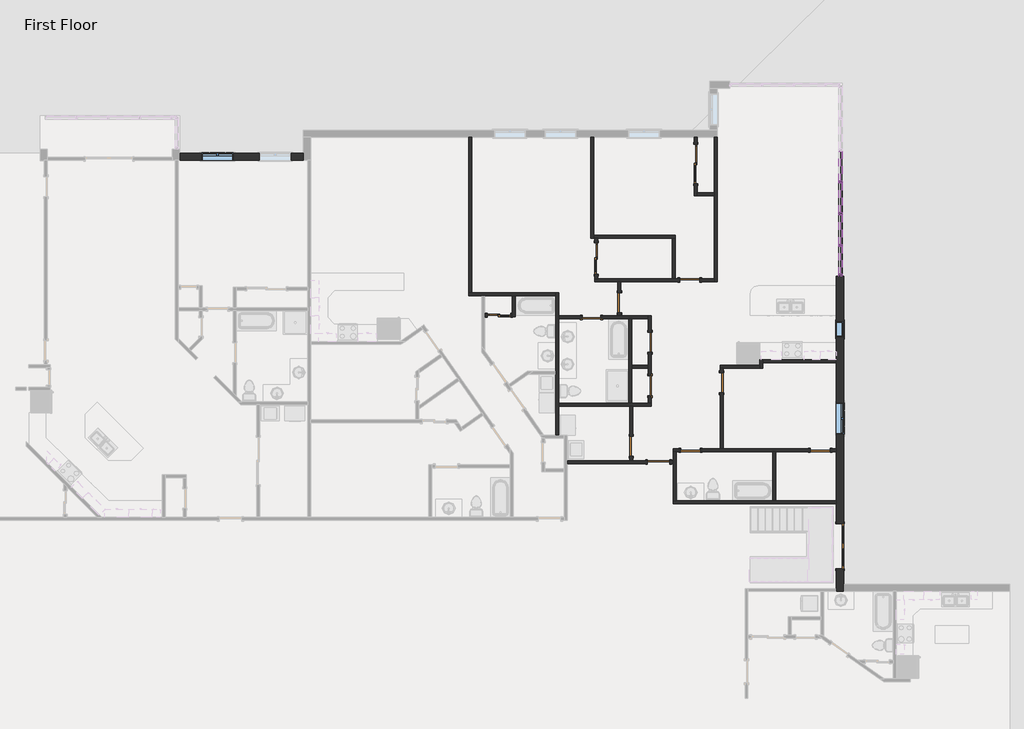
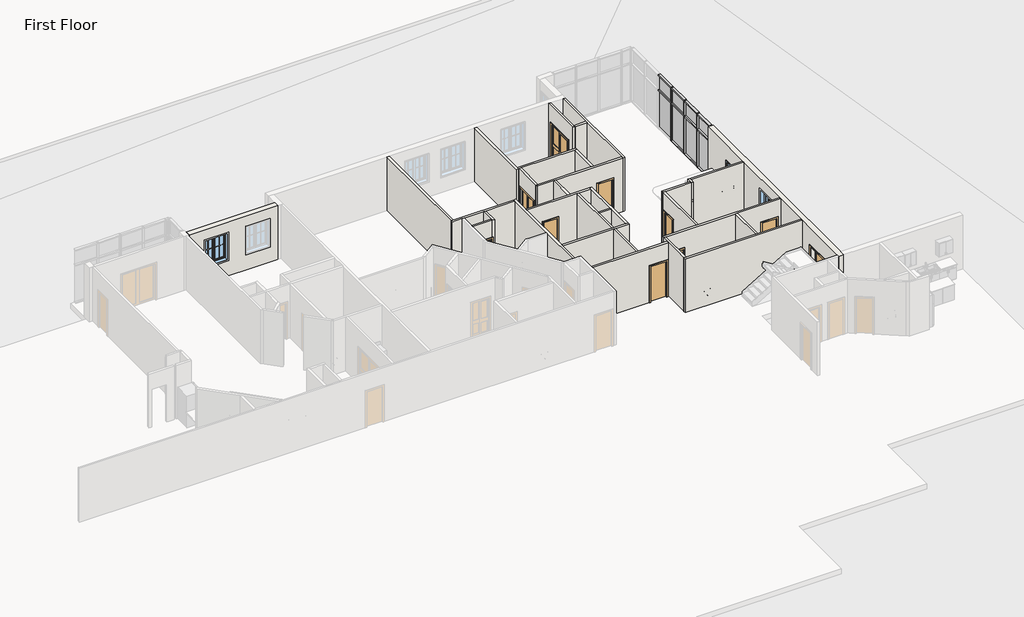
# One storey, part 11 of 17: 31 walls, 19 members, 14 doors, 8 plates, 3 windows.
"""IFC4 building model written with IfcOpenShell, lengths in millimetres."""

from ifc_helpers import new_model, si_unit, frame, origin, origin_with_axes, place, context, project, spatial, polyline, outline, extrude, faceted_brep, transform, mapped, element, save
from components import door_3dccea18, door_2d0eeab4, door_d8f5dbb5, door_f2b275c1, door_c29894e6, door_88c23cd7, door_900f836f, door_2e7ec8be, rectangular_mullion_rectangular_mullion_1_fa3625a1, rectangular_mullion_rectangular_mullion_1_a50b3cda, rectangular_mullion_rectangular_mullion_1_5cd4c5ac, rectangular_mullion_rectangular_mullion_1_7cbf0b94, rectangular_mullion_rectangular_mullion_1_6186cc23, rectangular_mullion_rectangular_mullion_1_049a2e78, rectangular_mullion_rectangular_mullion_1_fcad50a8, rectangular_mullion_rectangular_mullion_1_aa096312, system_panel_glazed_53e6f9fb, system_panel_glazed_cb820e14, system_panel_glazed_f20beefc, system_panel_glazed_097fd36c, window_b85827b5, window_33528cc2

model = new_model("IFC4")

# Units and contexts
model_context = context("Model", 3, world=origin())
ifc_project = project(units=[si_unit("LENGTHUNIT", "METRE", prefix="MILLI")], contexts=[model_context])

# Site, building, storey
site = spatial("IfcSite", under=ifc_project)
building = spatial("IfcBuilding", under=site)
storey = spatial("IfcBuildingStorey", under=building, Name="First Floor", Elevation=0.0)

# Doors
placement = place(None, origin())
door_shape = door_3dccea18(model_context)
element("IfcDoor", 1, ObjectType="Double-Glass 1 : 68\" x 80\"", at=placement, inside=storey, context=model_context, shape_type="MappedRepresentation", body=[
    mapped(door_shape, transform((57158.7150204, 1258.701613, 0.0), x_axis=(0.0, -1.0, 0.0), y_axis=(1.0, 0.0, 0.0), z_axis=(0.0, 0.0, 1.0))),
])
door_2_shape = door_2d0eeab4(model_context)
element("IfcDoor", 2, ObjectType="Single-Flush : 28\" x 80\"", at=placement, inside=storey, context=model_context, shape_type="MappedRepresentation", body=[
    mapped(door_2_shape, transform((47614.8260153, 10045.1667096, 0.0), x_axis=(1.0, 0.0, 0.0), y_axis=(0.0, 1.0, 0.0), z_axis=(0.0, 0.0, 1.0))),
])
door_3_shape = door_d8f5dbb5(model_context)
element("IfcDoor", 3, ObjectType="Single-Flush : 30\" x 80\"", at=placement, inside=storey, context=model_context, shape_type="MappedRepresentation", body=[
    mapped(door_3_shape, transform((51410.1982354, 4944.5386142, 0.0), x_axis=(-1.0, 0.0, 0.0), y_axis=(0.0, -1.0, 0.0), z_axis=(0.0, 0.0, 1.0))),
])
element("IfcDoor", 4, ObjectType="Single-Flush : 30\" x 80\"", at=placement, inside=storey, context=model_context, shape_type="MappedRepresentation", body=[
    mapped(door_3_shape, transform((49850.4788879, 7420.455328, 0.0), x_axis=(0.0, -1.0, 0.0), y_axis=(1.0, 0.0, 0.0), z_axis=(0.0, 0.0, 1.0))),
])
door_4_shape = door_f2b275c1(model_context)
element("IfcDoor", 5, ObjectType="Single-Flush : 30\" x 80\"", at=placement, inside=storey, context=model_context, shape_type="MappedRepresentation", body=[
    mapped(door_4_shape, transform((49133.9272963, 5096.9386142, 0.0), x_axis=(0.0, -1.0, 0.0), y_axis=(1.0, 0.0, 0.0), z_axis=(0.0, 0.0, 1.0))),
])
element("IfcDoor", 6, ObjectType="Single-Flush : 30\" x 80\"", at=placement, inside=storey, context=model_context, shape_type="MappedRepresentation", body=[
    mapped(door_4_shape, transform((52607.3485135, 7538.9439464, 0.0), x_axis=(0.0, 1.0, 0.0), y_axis=(-1.0, 0.0, 0.0), z_axis=(0.0, 0.0, 1.0))),
])
element("IfcDoor", 7, ObjectType="Single-Flush : 30\" x 80\"", at=placement, inside=storey, context=model_context, shape_type="MappedRepresentation", body=[
    mapped(door_4_shape, transform((56399.0962704, 4944.5386142, 0.0), x_axis=(1.0, 0.0, 0.0), y_axis=(0.0, 1.0, 0.0), z_axis=(0.0, 0.0, 1.0))),
])
element("IfcDoor", 8, ObjectType="Single-Flush : 30\" x 80\"", at=placement, inside=storey, context=model_context, shape_type="MappedRepresentation", body=[
    mapped(door_4_shape, transform((49850.4788879, 9096.855328, 0.0), x_axis=(0.0, 1.0, 0.0), y_axis=(-1.0, 0.0, 0.0), z_axis=(0.0, 0.0, 1.0))),
])
element("IfcDoor", 9, ObjectType="Single-Flush : 30\" x 80\"", at=placement, inside=storey, context=model_context, shape_type="MappedRepresentation", body=[
    mapped(door_4_shape, transform((51382.3746633, 11479.9245559, 0.0), x_axis=(-1.0, 0.0, 0.0), y_axis=(0.0, -1.0, 0.0), z_axis=(0.0, 0.0, 1.0))),
])
element("IfcDoor", 10, ObjectType="Single-Flush : 30\" x 80\"", at=placement, inside=storey, context=model_context, shape_type="MappedRepresentation", body=[
    mapped(door_4_shape, transform((48681.6260153, 10610.1456327, 0.0), x_axis=(0.0, -1.0, 0.0), y_axis=(1.0, 0.0, 0.0), z_axis=(0.0, 0.0, 1.0))),
])
door_5_shape = door_c29894e6(model_context)
element("IfcDoor", 11, ObjectType="Single-Flush : 34\" x 80\"", at=placement, inside=storey, context=model_context, shape_type="MappedRepresentation", body=[
    mapped(door_5_shape, transform((50190.9982354, 4487.3386142, 0.0), x_axis=(1.0, 0.0, 0.0), y_axis=(0.0, 1.0, 0.0), z_axis=(0.0, 0.0, 1.0))),
])
door_6_shape = door_88c23cd7(model_context)
element("IfcDoor", 12, ObjectType="Sliding-Closet : 36\" x 80\"", at=placement, inside=storey, context=model_context, shape_type="MappedRepresentation", body=[
    mapped(door_6_shape, transform((44050.8019535, 10258.3378349, 0.0), x_axis=(-1.0, 0.0, 0.0), y_axis=(0.0, -1.0, 0.0), z_axis=(0.0, 0.0, 1.0))),
])
door_7_shape = door_900f836f(model_context)
element("IfcDoor", 13, ObjectType="Sliding-Closet : 48\" x 80\"", at=placement, inside=storey, context=model_context, shape_type="MappedRepresentation", body=[
    mapped(door_7_shape, transform((47915.2940143, 12314.1601128, 0.0), x_axis=(0.0, 1.0, 0.0), y_axis=(-1.0, 0.0, 0.0), z_axis=(0.0, 0.0, 1.0))),
])
door_8_shape = door_2e7ec8be(model_context)
element("IfcDoor", 14, ObjectType="Sliding-Closet : 60\" x 80\"", at=placement, inside=storey, context=model_context, shape_type="MappedRepresentation", body=[
    mapped(door_8_shape, transform((51741.9440158, 15942.0032713, 0.0), x_axis=(0.0, 1.0, 0.0), y_axis=(-1.0, 0.0, 0.0), z_axis=(0.0, 0.0, 1.0))),
])

# Members
rectangular_mullion_rectangular_mullion_1_shape = rectangular_mullion_rectangular_mullion_1_fa3625a1(model_context)
element("IfcMember", 15, ObjectType="Rectangular Mullion : Rectangular Mullion 1", at=placement, inside=storey, context=model_context, shape_type="MappedRepresentation", body=[
    mapped(rectangular_mullion_rectangular_mullion_1_shape, transform((57175.1534229, 15281.8669816, 3048.0), x_axis=(0.0, 0.0, 1.0), y_axis=(-1.0, 0.0, 0.0), z_axis=(0.0, -1.0, 0.0))),
])
element("IfcMember", 16, ObjectType="Rectangular Mullion : Rectangular Mullion 1", at=placement, inside=storey, context=model_context, shape_type="MappedRepresentation", body=[
    mapped(rectangular_mullion_rectangular_mullion_1_shape, transform((57175.1534229, 14062.6669816, 3048.0), x_axis=(0.0, 0.0, 1.0), y_axis=(-1.0, 0.0, 0.0), z_axis=(0.0, -1.0, 0.0))),
])
element("IfcMember", 17, ObjectType="Rectangular Mullion : Rectangular Mullion 1", at=placement, inside=storey, context=model_context, shape_type="MappedRepresentation", body=[
    mapped(rectangular_mullion_rectangular_mullion_1_shape, transform((57175.1534229, 12843.4669816, 3048.0), x_axis=(0.0, 0.0, 1.0), y_axis=(-1.0, 0.0, 0.0), z_axis=(0.0, -1.0, 0.0))),
])
element("IfcMember", 18, ObjectType="Rectangular Mullion : Rectangular Mullion 1", at=placement, inside=storey, context=model_context, shape_type="MappedRepresentation", body=[
    mapped(rectangular_mullion_rectangular_mullion_1_shape, transform((57175.1534229, 15218.3669816, 0.0), x_axis=(0.0, 0.0, -1.0), y_axis=(-1.0, 0.0, 0.0), z_axis=(0.0, 1.0, 0.0))),
])
element("IfcMember", 19, ObjectType="Rectangular Mullion : Rectangular Mullion 1", at=placement, inside=storey, context=model_context, shape_type="MappedRepresentation", body=[
    mapped(rectangular_mullion_rectangular_mullion_1_shape, transform((57175.1534229, 13999.1669816, 0.0), x_axis=(0.0, 0.0, -1.0), y_axis=(-1.0, 0.0, 0.0), z_axis=(0.0, 1.0, 0.0))),
])
rectangular_mullion_rectangular_mullion_1_2_shape = rectangular_mullion_rectangular_mullion_1_a50b3cda(model_context)
element("IfcMember", 20, ObjectType="Rectangular Mullion : Rectangular Mullion 1", at=placement, inside=storey, context=model_context, shape_type="MappedRepresentation", body=[
    mapped(rectangular_mullion_rectangular_mullion_1_2_shape, transform((57175.1534229, 11632.2044819, 0.0), x_axis=(0.0, -1.0, 0.0), y_axis=(-1.0, 0.0, 0.0), z_axis=(0.0, 0.0, -1.0))),
])
rectangular_mullion_rectangular_mullion_1_3_shape = rectangular_mullion_rectangular_mullion_1_5cd4c5ac(model_context)
element("IfcMember", 21, ObjectType="Rectangular Mullion : Rectangular Mullion 1", at=placement, inside=storey, context=model_context, shape_type="MappedRepresentation", body=[
    mapped(rectangular_mullion_rectangular_mullion_1_3_shape, transform((57175.1534229, 11632.2044819, 2165.35), x_axis=(0.0, -1.0, 0.0), y_axis=(-1.0, 0.0, 0.0), z_axis=(0.0, 0.0, -1.0))),
])
rectangular_mullion_rectangular_mullion_1_4_shape = rectangular_mullion_rectangular_mullion_1_7cbf0b94(model_context)
element("IfcMember", 22, ObjectType="Rectangular Mullion : Rectangular Mullion 1", at=placement, inside=storey, context=model_context, shape_type="MappedRepresentation", body=[
    mapped(rectangular_mullion_rectangular_mullion_1_4_shape, transform((57175.1534229, 15281.8669816, 2165.35), x_axis=(0.0, 0.0, 1.0), y_axis=(-1.0, 0.0, 0.0), z_axis=(0.0, -1.0, 0.0))),
])
element("IfcMember", 23, ObjectType="Rectangular Mullion : Rectangular Mullion 1", at=placement, inside=storey, context=model_context, shape_type="MappedRepresentation", body=[
    mapped(rectangular_mullion_rectangular_mullion_1_4_shape, transform((57175.1534229, 14062.6669816, 2165.35), x_axis=(0.0, 0.0, 1.0), y_axis=(-1.0, 0.0, 0.0), z_axis=(0.0, -1.0, 0.0))),
])
element("IfcMember", 24, ObjectType="Rectangular Mullion : Rectangular Mullion 1", at=placement, inside=storey, context=model_context, shape_type="MappedRepresentation", body=[
    mapped(rectangular_mullion_rectangular_mullion_1_4_shape, transform((57175.1534229, 12843.4669816, 2165.35), x_axis=(0.0, 0.0, 1.0), y_axis=(-1.0, 0.0, 0.0), z_axis=(0.0, -1.0, 0.0))),
])
rectangular_mullion_rectangular_mullion_1_5_shape = rectangular_mullion_rectangular_mullion_1_6186cc23(model_context)
element("IfcMember", 25, ObjectType="Rectangular Mullion : Rectangular Mullion 1", at=placement, inside=storey, context=model_context, shape_type="MappedRepresentation", body=[
    mapped(rectangular_mullion_rectangular_mullion_1_5_shape, transform((57175.1534229, 15250.1169816, 0.0), x_axis=(0.0, -1.0, 0.0), y_axis=(-1.0, 0.0, 0.0), z_axis=(0.0, 0.0, -1.0))),
])
element("IfcMember", 26, ObjectType="Rectangular Mullion : Rectangular Mullion 1", at=placement, inside=storey, context=model_context, shape_type="MappedRepresentation", body=[
    mapped(rectangular_mullion_rectangular_mullion_1_5_shape, transform((57175.1534229, 14030.9169816, 0.0), x_axis=(0.0, -1.0, 0.0), y_axis=(-1.0, 0.0, 0.0), z_axis=(0.0, 0.0, -1.0))),
])
element("IfcMember", 27, ObjectType="Rectangular Mullion : Rectangular Mullion 1", at=placement, inside=storey, context=model_context, shape_type="MappedRepresentation", body=[
    mapped(rectangular_mullion_rectangular_mullion_1_5_shape, transform((57175.1534229, 12811.7169816, 0.0), x_axis=(0.0, -1.0, 0.0), y_axis=(-1.0, 0.0, 0.0), z_axis=(0.0, 0.0, -1.0))),
])
rectangular_mullion_rectangular_mullion_1_6_shape = rectangular_mullion_rectangular_mullion_1_049a2e78(model_context)
element("IfcMember", 28, ObjectType="Rectangular Mullion : Rectangular Mullion 1", at=placement, inside=storey, context=model_context, shape_type="MappedRepresentation", body=[
    mapped(rectangular_mullion_rectangular_mullion_1_6_shape, transform((57175.1534229, 15250.1169816, 2165.35), x_axis=(0.0, -1.0, 0.0), y_axis=(-1.0, 0.0, 0.0), z_axis=(0.0, 0.0, -1.0))),
])
element("IfcMember", 29, ObjectType="Rectangular Mullion : Rectangular Mullion 1", at=placement, inside=storey, context=model_context, shape_type="MappedRepresentation", body=[
    mapped(rectangular_mullion_rectangular_mullion_1_6_shape, transform((57175.1534229, 14030.9169816, 2165.35), x_axis=(0.0, -1.0, 0.0), y_axis=(-1.0, 0.0, 0.0), z_axis=(0.0, 0.0, -1.0))),
])
element("IfcMember", 30, ObjectType="Rectangular Mullion : Rectangular Mullion 1", at=placement, inside=storey, context=model_context, shape_type="MappedRepresentation", body=[
    mapped(rectangular_mullion_rectangular_mullion_1_6_shape, transform((57175.1534229, 12811.7169816, 2165.35), x_axis=(0.0, -1.0, 0.0), y_axis=(-1.0, 0.0, 0.0), z_axis=(0.0, 0.0, -1.0))),
])
rectangular_mullion_rectangular_mullion_1_7_shape = rectangular_mullion_rectangular_mullion_1_fcad50a8(model_context)
element("IfcMember", 31, ObjectType="Rectangular Mullion : Rectangular Mullion 1", at=placement, inside=storey, context=model_context, shape_type="MappedRepresentation", body=[
    mapped(rectangular_mullion_rectangular_mullion_1_7_shape, transform((57175.1534229, 11695.7044819, 3048.0), x_axis=(0.0, 0.0, 1.0), y_axis=(-1.0, 0.0, 0.0), z_axis=(0.0, -1.0, 0.0))),
])
element("IfcMember", 32, ObjectType="Rectangular Mullion : Rectangular Mullion 1", at=placement, inside=storey, context=model_context, shape_type="MappedRepresentation", body=[
    mapped(rectangular_mullion_rectangular_mullion_1_7_shape, transform((57175.1534229, 12779.9669816, 0.0), x_axis=(0.0, 0.0, -1.0), y_axis=(-1.0, 0.0, 0.0), z_axis=(0.0, 1.0, 0.0))),
])
rectangular_mullion_rectangular_mullion_1_8_shape = rectangular_mullion_rectangular_mullion_1_aa096312(model_context)
element("IfcMember", 33, ObjectType="Rectangular Mullion : Rectangular Mullion 1", at=placement, inside=storey, context=model_context, shape_type="MappedRepresentation", body=[
    mapped(rectangular_mullion_rectangular_mullion_1_8_shape, transform((57175.1534229, 11695.7044819, 2165.35), x_axis=(0.0, 0.0, 1.0), y_axis=(-1.0, 0.0, 0.0), z_axis=(0.0, -1.0, 0.0))),
])

# Plates
system_panel_glazed_shape = system_panel_glazed_53e6f9fb(model_context)
element("IfcPlate", 34, ObjectType="System Panel : Glazed", at=placement, inside=storey, context=model_context, shape_type="MappedRepresentation", body=[
    mapped(system_panel_glazed_shape, transform((57175.1534229, 15859.7169816, 63.5), x_axis=(0.0, -1.0, 0.0), y_axis=(1.0, 0.0, 0.0), z_axis=(0.0, 0.0, 1.0))),
])
element("IfcPlate", 35, ObjectType="System Panel : Glazed", at=placement, inside=storey, context=model_context, shape_type="MappedRepresentation", body=[
    mapped(system_panel_glazed_shape, transform((57175.1534229, 14640.5169816, 63.5), x_axis=(0.0, -1.0, 0.0), y_axis=(1.0, 0.0, 0.0), z_axis=(0.0, 0.0, 1.0))),
])
element("IfcPlate", 36, ObjectType="System Panel : Glazed", at=placement, inside=storey, context=model_context, shape_type="MappedRepresentation", body=[
    mapped(system_panel_glazed_shape, transform((57175.1534229, 13421.3169816, 63.5), x_axis=(0.0, -1.0, 0.0), y_axis=(1.0, 0.0, 0.0), z_axis=(0.0, 0.0, 1.0))),
])
system_panel_glazed_2_shape = system_panel_glazed_cb820e14(model_context)
element("IfcPlate", 37, ObjectType="System Panel : Glazed", at=placement, inside=storey, context=model_context, shape_type="MappedRepresentation", body=[
    mapped(system_panel_glazed_2_shape, transform((57175.1534229, 15859.7169816, 2197.1), x_axis=(0.0, -1.0, 0.0), y_axis=(1.0, 0.0, 0.0), z_axis=(0.0, 0.0, 1.0))),
])
element("IfcPlate", 38, ObjectType="System Panel : Glazed", at=placement, inside=storey, context=model_context, shape_type="MappedRepresentation", body=[
    mapped(system_panel_glazed_2_shape, transform((57175.1534229, 14640.5169816, 2197.1), x_axis=(0.0, -1.0, 0.0), y_axis=(1.0, 0.0, 0.0), z_axis=(0.0, 0.0, 1.0))),
])
element("IfcPlate", 39, ObjectType="System Panel : Glazed", at=placement, inside=storey, context=model_context, shape_type="MappedRepresentation", body=[
    mapped(system_panel_glazed_2_shape, transform((57175.1534229, 13421.3169816, 2197.1), x_axis=(0.0, -1.0, 0.0), y_axis=(1.0, 0.0, 0.0), z_axis=(0.0, 0.0, 1.0))),
])
system_panel_glazed_3_shape = system_panel_glazed_f20beefc(model_context)
element("IfcPlate", 40, ObjectType="System Panel : Glazed", at=placement, inside=storey, context=model_context, shape_type="MappedRepresentation", body=[
    mapped(system_panel_glazed_3_shape, transform((57175.1534229, 12237.8357318, 63.5), x_axis=(0.0, -1.0, 0.0), y_axis=(1.0, 0.0, 0.0), z_axis=(0.0, 0.0, 1.0))),
])
system_panel_glazed_4_shape = system_panel_glazed_097fd36c(model_context)
element("IfcPlate", 41, ObjectType="System Panel : Glazed", at=placement, inside=storey, context=model_context, shape_type="MappedRepresentation", body=[
    mapped(system_panel_glazed_4_shape, transform((57175.1534229, 12237.8357318, 2197.1), x_axis=(0.0, -1.0, 0.0), y_axis=(1.0, 0.0, 0.0), z_axis=(0.0, 0.0, 1.0))),
])

# Walls
element("IfcWall", 42, ObjectType="Exterior - Brick on Wood Stud", at=placement, inside=storey, context=model_context, shape_type="Brep", body=[
    faceted_brep([(57019.8087704, 395.101613, 2032.0), (57019.8087704, 395.101613, 0.0), (57019.8087704, -370.8512558, 0.0), (57019.8087704, -485.1512558, 0.0), (57019.8087704, -485.1512558, 3048.0), (57019.8087704, -370.8512558, 3048.0), (57019.8087704, 2888.2544819, 3048.0), (57019.8087704, 3002.5544819, 3048.0), (57019.8087704, 4887.3886142, 3048.0), (57019.8087704, 5001.6886142, 3048.0), (57019.8087704, 8311.6167096, 3048.0), (57019.8087704, 8425.9167096, 3048.0), (57019.8087704, 11632.2044819, 3048.0), (57019.8087704, 11632.2044819, 0.0), (57019.8087704, 8425.9167096, 0.0), (57019.8087704, 8311.6167096, 0.0), (57019.8087704, 5001.6886142, 0.0), (57019.8087704, 4887.3886142, 0.0), (57019.8087704, 3002.5544819, 0.0), (57019.8087704, 2888.2544819, 0.0), (57019.8087704, 2122.301613, 0.0), (57019.8087704, 2122.301613, 2032.0), (57019.8087704, 5554.1386142, 2438.4), (57019.8087704, 5554.1386142, 914.4), (57019.8087704, 6773.3386142, 914.4), (57019.8087704, 6773.3386142, 2438.4), (57019.8087704, 9283.1667096, 2133.6), (57019.8087704, 9283.1667096, 914.4), (57019.8087704, 9892.7667096, 914.4), (57019.8087704, 9892.7667096, 2133.6), (57302.3837704, -485.1512558, 0.0), (57302.3837704, -202.5762558, 0.0), (57302.3837704, 395.101613, 0.0), (57302.3837704, 395.101613, 2032.0), (57302.3837704, 2122.301613, 2032.0), (57302.3837704, 2122.301613, 0.0), (57302.3837704, 11632.2044819, 0.0), (57302.3837704, 11632.2044819, 3048.0), (57302.3837704, -202.5762558, 3048.0), (57302.3837704, -485.1512558, 3048.0), (57302.3837704, 5554.1386142, 2438.4), (57302.3837704, 6773.3386142, 2438.4), (57302.3837704, 6773.3386142, 914.4), (57302.3837704, 5554.1386142, 914.4), (57302.3837704, 9283.1667096, 2133.6), (57302.3837704, 9892.7667096, 2133.6), (57302.3837704, 9892.7667096, 914.4), (57302.3837704, 9283.1667096, 914.4)], [[[0, 1, 2, 3, 4, 5, 6, 7, 8, 9, 10, 11, 12, 13, 14, 15, 16, 17, 18, 19, 20, 21], [22, 23, 24, 25], [26, 27, 28, 29]], [[30, 31, 32, 33, 34, 35, 36, 37, 38, 39], [40, 41, 42, 43], [44, 45, 46, 47]], [[3, 2, 1, 32, 31, 30]], [[20, 19, 18, 17, 16, 15, 14, 13, 36, 35]], [[12, 11, 10, 9, 8, 7, 6, 5, 4, 39, 38, 37]], [[13, 12, 37, 36]], [[23, 22, 40, 43]], [[24, 23, 43, 42]], [[25, 24, 42, 41]], [[22, 25, 41, 40]], [[27, 26, 44, 47]], [[28, 27, 47, 46]], [[29, 28, 46, 45]], [[26, 29, 45, 44]], [[4, 3, 30, 39]], [[33, 32, 1, 0]], [[34, 33, 0, 21]], [[35, 34, 21, 20]]]),
])
element("IfcWall", 43, ObjectType="Exterior - Brick on Wood Stud", at=placement, inside=storey, context=model_context, shape_type="SweptSolid", body=[
    extrude(outline(polyline([(0.0, 36533.8428001), (3048.0, 36533.8428001), (3048.0, 31777.7798474), (0.0, 31777.7798474), (0.0, 36533.8428001)]), holes=[polyline([(2438.4, 36065.5303001), (914.4, 36065.5303001), (914.4, 34846.3303001), (2438.4, 34846.3303001), (2438.4, 36065.5303001)]), polyline([(2438.4, 33846.2923474), (914.4, 33846.2923474), (914.4, 32627.0923474), (2438.4, 32627.0923474), (2438.4, 33846.2923474)])]), frame((0.0, 16077.0865339, 0.0), z_axis=(0.0, 1.0, 0.0), x_axis=(0.0, 0.0, 1.0)), (0.0, 0.0, 1.0), 282.575),
])
element("IfcWall", 44, ObjectType="Interior - 4 1/2\" Partition", at=placement, inside=storey, context=model_context, shape_type="Brep", body=[
    faceted_brep([(57019.8087704, 3002.5544819, 0.0), (54695.8146836, 3002.5544819, 0.0), (54581.5146836, 3002.5544819, 0.0), (50857.7482354, 3002.5544819, 0.0), (50743.4482354, 3002.5544819, 0.0), (50743.4482354, 3002.5544819, 3048.0), (50857.7482354, 3002.5544819, 3048.0), (54581.5146836, 3002.5544819, 3048.0), (54695.8146836, 3002.5544819, 3048.0), (57019.8087704, 3002.5544819, 3048.0), (57019.8087704, 2888.2544819, 0.0), (57019.8087704, 2888.2544819, 3048.0), (50743.4482354, 2888.2544819, 3048.0), (50743.4482354, 2888.2544819, 0.0)], [[[0, 1, 2, 3, 4, 5, 6, 7, 8, 9]], [[10, 11, 12, 13]], [[4, 3, 2, 1, 0, 10, 13]], [[9, 8, 7, 6, 5, 12, 11]], [[5, 4, 13, 12]], [[0, 9, 11, 10]]]),
])
element("IfcWall", 45, ObjectType="Interior - 4 1/2\" Partition", at=placement, inside=storey, context=model_context, shape_type="Brep", body=[
    faceted_brep([(50857.7482354, 3002.5544819, 0.0), (50857.7482354, 4887.3886142, 0.0), (50857.7482354, 4887.3886142, 3048.0), (50857.7482354, 3002.5544819, 3048.0), (50743.4482354, 3002.5544819, 0.0), (50743.4482354, 3002.5544819, 3048.0), (50743.4482354, 4430.1886142, 3048.0), (50743.4482354, 4544.4886142, 3048.0), (50743.4482354, 4887.3886142, 3048.0), (50743.4482354, 4887.3886142, 0.0), (50743.4482354, 4544.4886142, 0.0), (50743.4482354, 4430.1886142, 0.0)], [[[0, 1, 2, 3]], [[4, 5, 6, 7, 8, 9, 10, 11]], [[1, 0, 4, 11, 10, 9]], [[3, 2, 8, 7, 6, 5]], [[2, 1, 9, 8]], [[0, 3, 5, 4]]]),
])
element("IfcWall", 46, ObjectType="Interior - 4 1/2\" Partition", at=placement, inside=storey, context=model_context, shape_type="Brep", body=[
    faceted_brep([(50743.4482354, 4544.4886142, 0.0), (50622.7982354, 4544.4886142, 0.0), (50622.7982354, 4544.4886142, 2032.0), (49759.1982354, 4544.4886142, 2032.0), (49759.1982354, 4544.4886142, 0.0), (49191.0772963, 4544.4886142, 0.0), (49076.7772963, 4544.4886142, 0.0), (46668.7626872, 4544.4886142, 0.0), (46668.7626872, 4544.4886142, 3048.0), (49076.7772963, 4544.4886142, 3048.0), (49191.0772963, 4544.4886142, 3048.0), (50743.4482354, 4544.4886142, 3048.0), (50622.7982354, 4430.1886142, 2032.0), (50622.7982354, 4430.1886142, 0.0), (50743.4482354, 4430.1886142, 0.0), (50743.4482354, 4430.1886142, 3048.0), (46668.7626872, 4430.1886142, 3048.0), (46668.7626872, 4430.1886142, 0.0), (49759.1982354, 4430.1886142, 0.0), (49759.1982354, 4430.1886142, 2032.0)], [[[0, 1, 2, 3, 4, 5, 6, 7, 8, 9, 10, 11]], [[12, 13, 14, 15, 16, 17, 18, 19]], [[18, 17, 7, 6, 5, 4]], [[14, 13, 1, 0]], [[11, 10, 9, 8, 16, 15]], [[2, 1, 13, 12]], [[3, 2, 12, 19]], [[4, 3, 19, 18]], [[8, 7, 17, 16]], [[0, 11, 15, 14]]]),
])
element("IfcWall", 47, ObjectType="Interior - 4 1/2\" Partition", at=placement, inside=storey, context=model_context, shape_type="Brep", body=[
    faceted_brep([(46352.4352525, 5524.2893477, 0.0), (46352.4352525, 6635.2167096, 0.0), (46352.4352525, 6749.5167096, 0.0), (46352.4352525, 9988.0167096, 0.0), (46352.4352525, 10102.3167096, 0.0), (46352.4352525, 11001.2878349, 0.0), (46352.4352525, 11001.2878349, 3048.0), (46352.4352525, 10102.3167096, 3048.0), (46352.4352525, 9988.0167096, 3048.0), (46352.4352525, 6749.5167096, 3048.0), (46352.4352525, 6635.2167096, 3048.0), (46352.4352525, 5524.2893477, 3048.0), (46238.1352525, 5524.2893477, 0.0), (46238.1352525, 5524.2893477, 3048.0), (46238.1352525, 7864.8634145, 3048.0), (46238.1352525, 7979.1634145, 3048.0), (46238.1352525, 10886.9878349, 3048.0), (46238.1352525, 11001.2878349, 3048.0), (46238.1352525, 11001.2878349, 0.0), (46238.1352525, 10886.9878349, 0.0), (46238.1352525, 7979.1634145, 0.0), (46238.1352525, 7864.8634145, 0.0)], [[[0, 1, 2, 3, 4, 5, 6, 7, 8, 9, 10, 11]], [[12, 13, 14, 15, 16, 17, 18, 19, 20, 21]], [[5, 4, 3, 2, 1, 0, 12, 21, 20, 19, 18]], [[11, 10, 9, 8, 7, 6, 17, 16, 15, 14, 13]], [[6, 5, 18, 17]], [[0, 11, 13, 12]]]),
])
element("IfcWall", 48, ObjectType="Interior - 4 1/2\" Partition", at=placement, inside=storey, context=model_context, shape_type="Brep", body=[
    faceted_brep([(46238.1352525, 11001.2878349, 0.0), (43004.4928001, 11001.2878349, 0.0), (42890.1928001, 11001.2878349, 0.0), (42890.1928001, 11001.2878349, 3048.0), (43004.4928001, 11001.2878349, 3048.0), (46238.1352525, 11001.2878349, 3048.0), (46238.1352525, 10886.9878349, 0.0), (46238.1352525, 10886.9878349, 3048.0), (44678.4640263, 10886.9878349, 3048.0), (44564.1640263, 10886.9878349, 3048.0), (43512.0398807, 10886.9878349, 3048.0), (43397.7398807, 10886.9878349, 3048.0), (42890.1928001, 10886.9878349, 3048.0), (42890.1928001, 10886.9878349, 0.0), (43397.7398807, 10886.9878349, 0.0), (43512.0398807, 10886.9878349, 0.0), (44564.1640263, 10886.9878349, 0.0), (44678.4640263, 10886.9878349, 0.0)], [[[0, 1, 2, 3, 4, 5]], [[6, 7, 8, 9, 10, 11, 12, 13, 14, 15, 16, 17]], [[2, 1, 0, 6, 17, 16, 15, 14, 13]], [[5, 4, 3, 12, 11, 10, 9, 8, 7]], [[3, 2, 13, 12]], [[0, 5, 7, 6]]]),
])
element("IfcWall", 49, ObjectType="Interior - 4 1/2\" Partition", at=placement, inside=storey, context=model_context, shape_type="SweptSolid", body=[
    extrude(outline(polyline([(43004.4928001, 16964.1039258), (43004.4928001, 11001.2878349), (42890.1928001, 11001.2878349), (42890.1928001, 16964.1039258), (43004.4928001, 16964.1039258)])), origin_with_axes(), (0.0, 0.0, 1.0), 3048.0),
])
element("IfcWall", 50, ObjectType="Interior - 4 1/2\" Partition", at=placement, inside=storey, context=model_context, shape_type="Brep", body=[
    faceted_brep([(47578.7440143, 16964.1039258, 0.0), (47578.7440143, 13091.2456698, 0.0), (47578.7440143, 13091.2456698, 3048.0), (47578.7440143, 16964.1039258, 3048.0), (47693.0440143, 16964.1039258, 0.0), (47693.0440143, 16964.1039258, 3048.0), (47693.0440143, 13205.5456698, 3048.0), (47693.0440143, 13091.2456698, 3048.0), (47693.0440143, 13091.2456698, 0.0), (47693.0440143, 13205.5456698, 0.0)], [[[0, 1, 2, 3]], [[4, 5, 6, 7, 8, 9]], [[1, 0, 4, 9, 8]], [[3, 2, 7, 6, 5]], [[2, 1, 8, 7]], [[0, 3, 5, 4]]]),
])
element("IfcWall", 51, ObjectType="Interior - 4 1/2\" Partition", at=placement, inside=storey, context=model_context, shape_type="Brep", body=[
    faceted_brep([(47693.0440143, 13091.2456698, 0.0), (47731.1440143, 13091.2456698, 0.0), (47845.4440143, 13091.2456698, 0.0), (50715.6246633, 13091.2456698, 0.0), (50829.9246633, 13091.2456698, 0.0), (50829.9246633, 13091.2456698, 3048.0), (50715.6246633, 13091.2456698, 3048.0), (47845.4440143, 13091.2456698, 3048.0), (47731.1440143, 13091.2456698, 3048.0), (47693.0440143, 13091.2456698, 3048.0), (47693.0440143, 13205.5456698, 0.0), (47693.0440143, 13205.5456698, 3048.0), (50829.9246633, 13205.5456698, 3048.0), (50829.9246633, 13205.5456698, 0.0)], [[[0, 1, 2, 3, 4, 5, 6, 7, 8, 9]], [[10, 11, 12, 13]], [[4, 3, 2, 1, 0, 10, 13]], [[9, 8, 7, 6, 5, 12, 11]], [[5, 4, 13, 12]], [[0, 9, 11, 10]]]),
])
element("IfcWall", 52, ObjectType="Interior - 4 1/2\" Partition", at=placement, inside=storey, context=model_context, shape_type="SweptSolid", body=[
    extrude(outline(polyline([(50715.6246633, 11537.0745559), (50715.6246633, 13091.2456698), (50829.9246633, 13091.2456698), (50829.9246633, 11537.0745559), (50715.6246633, 11537.0745559)])), origin_with_axes(), (0.0, 0.0, 1.0), 3048.0),
])
element("IfcWall", 53, ObjectType="Interior - 4 1/2\" Partition", at=placement, inside=storey, context=model_context, shape_type="Brep", body=[
    faceted_brep([(52325.3409229, 16964.1039258, 0.0), (52325.3409229, 14835.7651168, 0.0), (52325.3409229, 14721.4651168, 0.0), (52325.3409229, 11537.0745559, 0.0), (52325.3409229, 11422.7745559, 0.0), (52325.3409229, 11422.7745559, 3048.0), (52325.3409229, 11537.0745559, 3048.0), (52325.3409229, 14721.4651168, 3048.0), (52325.3409229, 14835.7651168, 3048.0), (52325.3409229, 16964.1039258, 3048.0), (52439.6409229, 16964.1039258, 0.0), (52439.6409229, 16964.1039258, 3048.0), (52439.6409229, 11422.7745559, 3048.0), (52439.6409229, 11422.7745559, 0.0)], [[[0, 1, 2, 3, 4, 5, 6, 7, 8, 9]], [[10, 11, 12, 13]], [[4, 3, 2, 1, 0, 10, 13]], [[9, 8, 7, 6, 5, 12, 11]], [[5, 4, 13, 12]], [[0, 9, 11, 10]]]),
])
element("IfcWall", 54, ObjectType="Interior - 4 1/2\" Partition", at=placement, inside=storey, context=model_context, shape_type="Brep", body=[
    faceted_brep([(51001.3746633, 11537.0745559, 2032.0), (51001.3746633, 11537.0745559, 0.0), (50829.9246633, 11537.0745559, 0.0), (50715.6246633, 11537.0745559, 0.0), (47845.4440143, 11537.0745559, 0.0), (47731.1440143, 11537.0745559, 0.0), (47731.1440143, 11537.0745559, 3048.0), (47845.4440143, 11537.0745559, 3048.0), (50715.6246633, 11537.0745559, 3048.0), (50829.9246633, 11537.0745559, 3048.0), (52325.3409229, 11537.0745559, 3048.0), (52325.3409229, 11537.0745559, 0.0), (51763.3746633, 11537.0745559, 0.0), (51763.3746633, 11537.0745559, 2032.0), (47731.1440143, 11422.7745559, 0.0), (48624.4760153, 11422.7745559, 0.0), (48738.7760153, 11422.7745559, 0.0), (51001.3746633, 11422.7745559, 0.0), (51001.3746633, 11422.7745559, 2032.0), (51763.3746633, 11422.7745559, 2032.0), (51763.3746633, 11422.7745559, 0.0), (52325.3409229, 11422.7745559, 0.0), (52325.3409229, 11422.7745559, 3048.0), (48738.7760153, 11422.7745559, 3048.0), (48624.4760153, 11422.7745559, 3048.0), (47731.1440143, 11422.7745559, 3048.0)], [[[0, 1, 2, 3, 4, 5, 6, 7, 8, 9, 10, 11, 12, 13]], [[14, 15, 16, 17, 18, 19, 20, 21, 22, 23, 24, 25]], [[12, 11, 21, 20]], [[5, 4, 3, 2, 1, 17, 16, 15, 14]], [[10, 9, 8, 7, 6, 25, 24, 23, 22]], [[18, 17, 1, 0]], [[19, 18, 0, 13]], [[20, 19, 13, 12]], [[6, 5, 14, 25]], [[11, 10, 22, 21]]]),
])
element("IfcWall", 55, ObjectType="Interior - 4 1/2\" Partition", at=placement, inside=storey, context=model_context, shape_type="SweptSolid", body=[
    extrude(outline(polyline([(13091.2456698, 0.0), (12923.7601128, 0.0), (12923.7601128, 2032.0), (11704.5601128, 2032.0), (11704.5601128, 0.0), (11537.0745559, 0.0), (11537.0745559, 3048.0), (13091.2456698, 3048.0), (13091.2456698, 0.0)])), frame((47731.1440143, 0.0, 0.0), z_axis=(1.0, 0.0, 0.0), x_axis=(0.0, 1.0, 0.0)), (0.0, 0.0, 1.0), 114.3),
])
element("IfcWall", 56, ObjectType="Interior - 4 1/2\" Partition", at=placement, inside=storey, context=model_context, shape_type="Brep", body=[
    faceted_brep([(46352.4352525, 6635.2167096, 0.0), (49076.7772963, 6635.2167096, 0.0), (49191.0772963, 6635.2167096, 0.0), (49907.6288879, 6635.2167096, 0.0), (49907.6288879, 6635.2167096, 3048.0), (49191.0772963, 6635.2167096, 3048.0), (49076.7772963, 6635.2167096, 3048.0), (46352.4352525, 6635.2167096, 3048.0), (46352.4352525, 6749.5167096, 0.0), (46352.4352525, 6749.5167096, 3048.0), (49032.3272963, 6749.5167096, 3048.0), (49146.6272963, 6749.5167096, 3048.0), (49793.3288879, 6749.5167096, 3048.0), (49907.6288879, 6749.5167096, 3048.0), (49907.6288879, 6749.5167096, 0.0), (49793.3288879, 6749.5167096, 0.0), (49146.6272963, 6749.5167096, 0.0), (49032.3272963, 6749.5167096, 0.0)], [[[0, 1, 2, 3, 4, 5, 6, 7]], [[8, 9, 10, 11, 12, 13, 14, 15, 16, 17]], [[3, 2, 1, 0, 8, 17, 16, 15, 14]], [[7, 6, 5, 4, 13, 12, 11, 10, 9]], [[4, 3, 14, 13]], [[0, 7, 9, 8]]]),
])
element("IfcWall", 57, ObjectType="Interior - 4 1/2\" Partition", at=placement, inside=storey, context=model_context, shape_type="SweptSolid", body=[
    extrude(outline(polyline([(4715.9386142, 2032.0), (4715.9386142, 0.0), (4544.4886142, 0.0), (4544.4886142, 3048.0), (6635.2167096, 3048.0), (6635.2167096, 0.0), (5477.9386142, 0.0), (5477.9386142, 2032.0), (4715.9386142, 2032.0)])), frame((49076.7772963, 0.0, 0.0), z_axis=(1.0, 0.0, 0.0), x_axis=(0.0, 1.0, 0.0)), (0.0, 0.0, 1.0), 114.3),
])
element("IfcWall", 58, ObjectType="Interior - 4 1/2\" Partition", at=placement, inside=storey, context=model_context, shape_type="Brep", body=[
    faceted_brep([(49907.6288879, 9477.855328, 2032.0), (49907.6288879, 9477.855328, 0.0), (49907.6288879, 10102.3167096, 0.0), (49907.6288879, 10102.3167096, 3048.0), (49907.6288879, 6749.5167096, 3048.0), (49907.6288879, 6749.5167096, 0.0), (49907.6288879, 7039.455328, 0.0), (49907.6288879, 7039.455328, 2032.0), (49907.6288879, 7801.455328, 2032.0), (49907.6288879, 7801.455328, 0.0), (49907.6288879, 8715.855328, 0.0), (49907.6288879, 8715.855328, 2032.0), (49793.3288879, 10102.3167096, 0.0), (49793.3288879, 9988.0167096, 0.0), (49793.3288879, 9477.855328, 0.0), (49793.3288879, 9477.855328, 2032.0), (49793.3288879, 8715.855328, 2032.0), (49793.3288879, 8715.855328, 0.0), (49793.3288879, 8205.6939464, 0.0), (49793.3288879, 8091.3939464, 0.0), (49793.3288879, 7801.455328, 0.0), (49793.3288879, 7801.455328, 2032.0), (49793.3288879, 7039.455328, 2032.0), (49793.3288879, 7039.455328, 0.0), (49793.3288879, 6749.5167096, 0.0), (49793.3288879, 6749.5167096, 3048.0), (49793.3288879, 8091.3939464, 3048.0), (49793.3288879, 8205.6939464, 3048.0), (49793.3288879, 9988.0167096, 3048.0), (49793.3288879, 10102.3167096, 3048.0)], [[[0, 1, 2, 3, 4, 5, 6, 7, 8, 9, 10, 11]], [[12, 13, 14, 15, 16, 17, 18, 19, 20, 21, 22, 23, 24, 25, 26, 27, 28, 29]], [[24, 23, 6, 5]], [[10, 9, 20, 19, 18, 17]], [[2, 1, 14, 13, 12]], [[4, 3, 29, 28, 27, 26, 25]], [[7, 6, 23, 22]], [[8, 7, 22, 21]], [[9, 8, 21, 20]], [[15, 14, 1, 0]], [[16, 15, 0, 11]], [[17, 16, 11, 10]], [[3, 2, 12, 29]], [[5, 4, 25, 24]]]),
])
element("IfcWall", 59, ObjectType="Interior - 4 1/2\" Partition", at=placement, inside=storey, context=model_context, shape_type="Brep", body=[
    faceted_brep([(49793.3288879, 10102.3167096, 0.0), (48738.7760153, 10102.3167096, 0.0), (48624.4760153, 10102.3167096, 0.0), (47970.4260153, 10102.3167096, 0.0), (47970.4260153, 10102.3167096, 2032.0), (47259.2260153, 10102.3167096, 2032.0), (47259.2260153, 10102.3167096, 0.0), (46352.4352525, 10102.3167096, 0.0), (46352.4352525, 10102.3167096, 3048.0), (48624.4760153, 10102.3167096, 3048.0), (48738.7760153, 10102.3167096, 3048.0), (49793.3288879, 10102.3167096, 3048.0), (47970.4260153, 9988.0167096, 2032.0), (47970.4260153, 9988.0167096, 0.0), (49032.3272963, 9988.0167096, 0.0), (49146.6272963, 9988.0167096, 0.0), (49793.3288879, 9988.0167096, 0.0), (49793.3288879, 9988.0167096, 3048.0), (49146.6272963, 9988.0167096, 3048.0), (49032.3272963, 9988.0167096, 3048.0), (46352.4352525, 9988.0167096, 3048.0), (46352.4352525, 9988.0167096, 0.0), (47259.2260153, 9988.0167096, 0.0), (47259.2260153, 9988.0167096, 2032.0)], [[[0, 1, 2, 3, 4, 5, 6, 7, 8, 9, 10, 11]], [[12, 13, 14, 15, 16, 17, 18, 19, 20, 21, 22, 23]], [[22, 21, 7, 6]], [[16, 15, 14, 13, 3, 2, 1, 0]], [[11, 10, 9, 8, 20, 19, 18, 17]], [[0, 11, 17, 16]], [[8, 7, 21, 20]], [[4, 3, 13, 12]], [[5, 4, 12, 23]], [[6, 5, 23, 22]]]),
])
element("IfcWall", 60, ObjectType="Interior - 4 1/2\" Partition", at=placement, inside=storey, context=model_context, shape_type="Brep", body=[
    faceted_brep([(49146.6272963, 6749.5167096, 0.0), (49146.6272963, 8091.3939464, 0.0), (49146.6272963, 8205.6939464, 0.0), (49146.6272963, 9988.0167096, 0.0), (49146.6272963, 9988.0167096, 3048.0), (49146.6272963, 8205.6939464, 3048.0), (49146.6272963, 8091.3939464, 3048.0), (49146.6272963, 6749.5167096, 3048.0), (49032.3272963, 6749.5167096, 0.0), (49032.3272963, 6749.5167096, 3048.0), (49032.3272963, 9988.0167096, 3048.0), (49032.3272963, 9988.0167096, 0.0)], [[[0, 1, 2, 3, 4, 5, 6, 7]], [[8, 9, 10, 11]], [[3, 2, 1, 0, 8, 11]], [[7, 6, 5, 4, 10, 9]], [[4, 3, 11, 10]], [[0, 7, 9, 8]]]),
])
element("IfcWall", 61, ObjectType="Interior - 4 1/2\" Partition", at=placement, inside=storey, context=model_context, shape_type="Brep", body=[
    faceted_brep([(57019.8087704, 5001.6886142, 0.0), (56780.0962704, 5001.6886142, 0.0), (56780.0962704, 5001.6886142, 2032.0), (56018.0962704, 5001.6886142, 2032.0), (56018.0962704, 5001.6886142, 0.0), (52664.4985135, 5001.6886142, 0.0), (52550.1985135, 5001.6886142, 0.0), (51791.1982354, 5001.6886142, 0.0), (51791.1982354, 5001.6886142, 2032.0), (51029.1982354, 5001.6886142, 2032.0), (51029.1982354, 5001.6886142, 0.0), (50743.4482354, 5001.6886142, 0.0), (50743.4482354, 5001.6886142, 3048.0), (52550.1985135, 5001.6886142, 3048.0), (52664.4985135, 5001.6886142, 3048.0), (57019.8087704, 5001.6886142, 3048.0), (56780.0962704, 4887.3886142, 2032.0), (56780.0962704, 4887.3886142, 0.0), (57019.8087704, 4887.3886142, 0.0), (57019.8087704, 4887.3886142, 3048.0), (54695.8146836, 4887.3886142, 3048.0), (54581.5146836, 4887.3886142, 3048.0), (50857.7482354, 4887.3886142, 3048.0), (50743.4482354, 4887.3886142, 3048.0), (50743.4482354, 4887.3886142, 0.0), (50857.7482354, 4887.3886142, 0.0), (51029.1982354, 4887.3886142, 0.0), (51029.1982354, 4887.3886142, 2032.0), (51791.1982354, 4887.3886142, 2032.0), (51791.1982354, 4887.3886142, 0.0), (54581.5146836, 4887.3886142, 0.0), (54695.8146836, 4887.3886142, 0.0), (56018.0962704, 4887.3886142, 0.0), (56018.0962704, 4887.3886142, 2032.0)], [[[0, 1, 2, 3, 4, 5, 6, 7, 8, 9, 10, 11, 12, 13, 14, 15]], [[16, 17, 18, 19, 20, 21, 22, 23, 24, 25, 26, 27, 28, 29, 30, 31, 32, 33]], [[11, 10, 26, 25, 24]], [[18, 17, 1, 0]], [[32, 31, 30, 29, 7, 6, 5, 4]], [[15, 14, 13, 12, 23, 22, 21, 20, 19]], [[27, 26, 10, 9]], [[28, 27, 9, 8]], [[29, 28, 8, 7]], [[2, 1, 17, 16]], [[3, 2, 16, 33]], [[4, 3, 33, 32]], [[12, 11, 24, 23]], [[0, 15, 19, 18]]]),
])
element("IfcWall", 62, ObjectType="Interior - 4 1/2\" Partition", at=placement, inside=storey, context=model_context, shape_type="SweptSolid", body=[
    extrude(outline(polyline([(54581.5146836, 3002.5544819), (54581.5146836, 4887.3886142), (54695.8146836, 4887.3886142), (54695.8146836, 3002.5544819), (54581.5146836, 3002.5544819)])), origin_with_axes(), (0.0, 0.0, 1.0), 3048.0),
])
element("IfcWall", 63, ObjectType="Interior - 4 1/2\" Partition", at=placement, inside=storey, context=model_context, shape_type="SweptSolid", body=[
    extrude(outline(polyline([(54188.4985135, 8425.9167096), (57019.8087704, 8425.9167096), (57019.8087704, 8311.6167096), (54188.4985135, 8311.6167096), (54188.4985135, 8425.9167096)])), origin_with_axes(), (0.0, 0.0, 1.0), 3048.0),
])
element("IfcWall", 64, ObjectType="Interior - 4 1/2\" Partition", at=placement, inside=storey, context=model_context, shape_type="Brep", body=[
    faceted_brep([(54074.1985135, 8425.9167096, 0.0), (54074.1985135, 8205.6939464, 0.0), (54074.1985135, 8091.3939464, 0.0), (54074.1985135, 8091.3939464, 3048.0), (54074.1985135, 8205.6939464, 3048.0), (54074.1985135, 8425.9167096, 3048.0), (54188.4985135, 8425.9167096, 0.0), (54188.4985135, 8425.9167096, 3048.0), (54188.4985135, 8311.6167096, 3048.0), (54188.4985135, 8091.3939464, 3048.0), (54188.4985135, 8091.3939464, 0.0), (54188.4985135, 8311.6167096, 0.0)], [[[0, 1, 2, 3, 4, 5]], [[6, 7, 8, 9, 10, 11]], [[2, 1, 0, 6, 11, 10]], [[5, 4, 3, 9, 8, 7]], [[3, 2, 10, 9]], [[0, 5, 7, 6]]]),
])
element("IfcWall", 65, ObjectType="Interior - 4 1/2\" Partition", at=placement, inside=storey, context=model_context, shape_type="Brep", body=[
    faceted_brep([(54074.1985135, 8205.6939464, 0.0), (52550.1985135, 8205.6939464, 0.0), (52550.1985135, 8205.6939464, 3048.0), (54074.1985135, 8205.6939464, 3048.0), (54074.1985135, 8091.3939464, 0.0), (54074.1985135, 8091.3939464, 3048.0), (52664.4985135, 8091.3939464, 3048.0), (52550.1985135, 8091.3939464, 3048.0), (52550.1985135, 8091.3939464, 0.0), (52664.4985135, 8091.3939464, 0.0)], [[[0, 1, 2, 3]], [[4, 5, 6, 7, 8, 9]], [[1, 0, 4, 9, 8]], [[3, 2, 7, 6, 5]], [[2, 1, 8, 7]], [[0, 3, 5, 4]]]),
])
element("IfcWall", 66, ObjectType="Interior - 4 1/2\" Partition", at=placement, inside=storey, context=model_context, shape_type="SweptSolid", body=[
    extrude(outline(polyline([(8091.3939464, 0.0), (7919.9439464, 0.0), (7919.9439464, 2032.0), (7157.9439464, 2032.0), (7157.9439464, 0.0), (5001.6886142, 0.0), (5001.6886142, 3048.0), (8091.3939464, 3048.0), (8091.3939464, 0.0)])), frame((52550.1985135, 0.0, 0.0), z_axis=(1.0, 0.0, 0.0), x_axis=(0.0, 1.0, 0.0)), (0.0, 0.0, 1.0), 114.3),
])
element("IfcWall", 67, ObjectType="Interior - 4 1/2\" Partition", at=placement, inside=storey, context=model_context, shape_type="Brep", body=[
    faceted_brep([(51557.7940158, 16964.1039258, 0.0), (51557.7940158, 16704.0032713, 0.0), (51557.7940158, 16704.0032713, 2032.0), (51557.7940158, 15180.0032713, 2032.0), (51557.7940158, 15180.0032713, 0.0), (51557.7940158, 14721.4651168, 0.0), (51557.7940158, 14721.4651168, 3048.0), (51557.7940158, 16964.1039258, 3048.0), (51672.0940158, 16704.0032713, 2032.0), (51672.0940158, 16704.0032713, 0.0), (51672.0940158, 16964.1039258, 0.0), (51672.0940158, 16964.1039258, 3048.0), (51672.0940158, 14835.7651168, 3048.0), (51672.0940158, 14721.4651168, 3048.0), (51672.0940158, 14721.4651168, 0.0), (51672.0940158, 14835.7651168, 0.0), (51672.0940158, 15180.0032713, 0.0), (51672.0940158, 15180.0032713, 2032.0)], [[[0, 1, 2, 3, 4, 5, 6, 7]], [[8, 9, 10, 11, 12, 13, 14, 15, 16, 17]], [[10, 9, 1, 0]], [[16, 15, 14, 5, 4]], [[7, 6, 13, 12, 11]], [[4, 3, 17, 16]], [[2, 1, 9, 8]], [[3, 2, 8, 17]], [[6, 5, 14, 13]], [[0, 7, 11, 10]]]),
])
element("IfcWall", 68, ObjectType="Interior - 4 1/2\" Partition", at=placement, inside=storey, context=model_context, shape_type="SweptSolid", body=[
    extrude(outline(polyline([(52325.3409229, 14721.4651168), (51672.0940158, 14721.4651168), (51672.0940158, 14835.7651168), (52325.3409229, 14835.7651168), (52325.3409229, 14721.4651168)])), origin_with_axes(), (0.0, 0.0, 1.0), 3048.0),
])
element("IfcWall", 69, ObjectType="Interior - 4 1/2\" Partition", at=placement, inside=storey, context=model_context, shape_type="SweptSolid", body=[
    extrude(outline(polyline([(49793.3288879, 8091.3939464), (49146.6272963, 8091.3939464), (49146.6272963, 8205.6939464), (49793.3288879, 8205.6939464), (49793.3288879, 8091.3939464)])), origin_with_axes(), (0.0, 0.0, 1.0), 3048.0),
])
element("IfcWall", 70, ObjectType="Interior - 4 1/2\" Partition", at=placement, inside=storey, context=model_context, shape_type="SweptSolid", body=[
    extrude(outline(polyline([(10229.1456327, 2032.0), (10229.1456327, 0.0), (10102.3167096, 0.0), (10102.3167096, 3048.0), (11422.7745559, 3048.0), (11422.7745559, 0.0), (10991.1456327, 0.0), (10991.1456327, 2032.0), (10229.1456327, 2032.0)])), frame((48624.4760153, 0.0, 0.0), z_axis=(1.0, 0.0, 0.0), x_axis=(0.0, 1.0, 0.0)), (0.0, 0.0, 1.0), 114.3),
])
element("IfcWall", 71, ObjectType="Interior - 4 1/2\" Partition", at=placement, inside=storey, context=model_context, shape_type="Brep", body=[
    faceted_brep([(44564.1640263, 10886.9878349, 0.0), (44564.1640263, 10188.4878349, 0.0), (44564.1640263, 10074.1878349, 0.0), (44564.1640263, 10074.1878349, 3048.0), (44564.1640263, 10188.4878349, 3048.0), (44564.1640263, 10886.9878349, 3048.0), (44678.4640263, 10886.9878349, 0.0), (44678.4640263, 10886.9878349, 3048.0), (44678.4640263, 10074.1878349, 3048.0), (44678.4640263, 10074.1878349, 0.0)], [[[0, 1, 2, 3, 4, 5]], [[6, 7, 8, 9]], [[2, 1, 0, 6, 9]], [[5, 4, 3, 8, 7]], [[3, 2, 9, 8]], [[0, 5, 7, 6]]]),
])
element("IfcWall", 72, ObjectType="Interior - 4 1/2\" Partition", at=placement, inside=storey, context=model_context, shape_type="SweptSolid", body=[
    extrude(outline(polyline([(0.0, 43512.0398807), (0.0, 43593.6019535), (2032.0, 43593.6019535), (2032.0, 44508.0019535), (0.0, 44508.0019535), (0.0, 44564.1640263), (3048.0, 44564.1640263), (3048.0, 43512.0398807), (0.0, 43512.0398807)])), frame((0.0, 10074.1878349, 0.0), z_axis=(0.0, 1.0, 0.0), x_axis=(0.0, 0.0, 1.0)), (0.0, 0.0, 1.0), 114.3),
])

# Windows
window_shape = window_b85827b5(model_context)
element("IfcWindow", 73, ObjectType="Fixed with Trim : 24\" x 48\"", at=placement, inside=storey, context=model_context, shape_type="MappedRepresentation", body=[
    mapped(window_shape, transform((57161.0962704, 9549.8667096, 0.0), x_axis=(0.0, -1.0, 0.0), y_axis=(1.0, 0.0, 0.0), z_axis=(0.0, 0.0, 1.0))),
])
window_2_shape = window_33528cc2(model_context)
element("IfcWindow", 74, ObjectType="Window-Casement-Double : 48\" x 60\"", at=placement, inside=storey, context=model_context, shape_type="MappedRepresentation", body=[
    mapped(window_2_shape, transform((57161.0962704, 6163.7386142, 0.0), x_axis=(0.0, -1.0, 0.0), y_axis=(1.0, 0.0, 0.0), z_axis=(0.0, 0.0, 1.0))),
])
element("IfcWindow", 75, ObjectType="Window-Casement-Double : 48\" x 60\"", at=placement, inside=storey, context=model_context, shape_type="MappedRepresentation", body=[
    mapped(window_2_shape, transform((33236.6923474, 16218.3740339, 0.0), x_axis=(1.0, 0.0, 0.0), y_axis=(0.0, 1.0, 0.0), z_axis=(0.0, 0.0, 1.0))),
])

save(model, "model.ifc")
